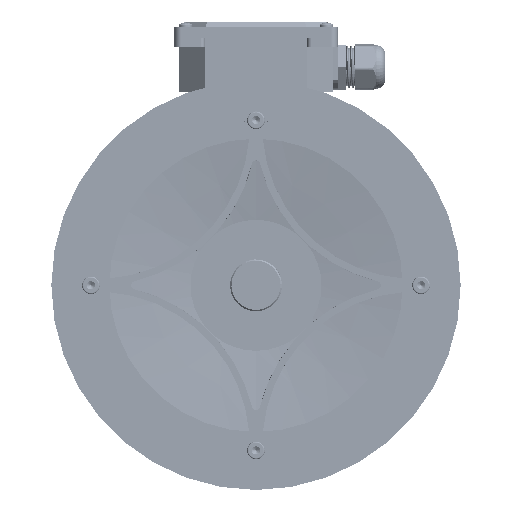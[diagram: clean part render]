
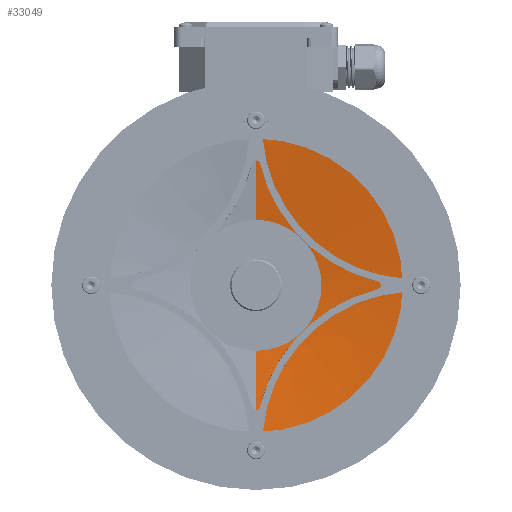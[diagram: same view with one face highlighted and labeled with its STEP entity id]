
A CAD part, front view. The second image highlights one B-rep face of the part: STEP entity #33049.
In plain terms, the highlighted conical face has half-angle 83.29 degrees and reference radius 48 mm.
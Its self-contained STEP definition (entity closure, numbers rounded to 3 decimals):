
#535 = CARTESIAN_POINT ( 'NONE',  ( 0., 15.363, 48. ) ) ;
#5953 = ORIENTED_EDGE ( 'NONE', *, *, #112389, .F. ) ;
#8708 = ORIENTED_EDGE ( 'NONE', *, *, #14385, .F. ) ;
#10110 = LINE ( 'NONE', #74543, #62810 ) ;
#11145 = VERTEX_POINT ( 'NONE', #535 ) ;
#14385 = EDGE_CURVE ( 'NONE', #27035, #11145, #50918, .T. ) ;
#16172 = DIRECTION ( 'NONE',  ( 0., -1., 0. ) ) ;
#22188 = CONICAL_SURFACE ( 'NONE', #133109, 48., 1.454 ) ;
#26769 = DIRECTION ( 'NONE',  ( 0., 0., -1. ) ) ;
#27035 = VERTEX_POINT ( 'NONE', #135183 ) ;
#33049 = ADVANCED_FACE ( 'NONE', ( #109479 ), #22188, .F. ) ;
#35917 = CARTESIAN_POINT ( 'NONE',  ( 0., 15.363, 48. ) ) ;
#38366 = CARTESIAN_POINT ( 'NONE',  ( 0., 8.363, 107.5 ) ) ;
#40924 = CARTESIAN_POINT ( 'NONE',  ( 0., 8.363, -107.5 ) ) ;
#46155 = ORIENTED_EDGE ( 'NONE', *, *, #98382, .T. ) ;
#48150 = VECTOR ( 'NONE', #98947, 1000. ) ;
#50918 = CIRCLE ( 'NONE', #109324, 48. ) ;
#56342 = DIRECTION ( 'NONE',  ( 0., -1., 0. ) ) ;
#56763 = DIRECTION ( 'NONE',  ( 0., -1., 0. ) ) ;
#62549 = ORIENTED_EDGE ( 'NONE', *, *, #124348, .T. ) ;
#62689 = VERTEX_POINT ( 'NONE', #38366 ) ;
#62810 = VECTOR ( 'NONE', #85112, 1000. ) ;
#74543 = CARTESIAN_POINT ( 'NONE',  ( 0., 15.363, -48. ) ) ;
#81622 = AXIS2_PLACEMENT_3D ( 'NONE', #119813, #56763, #130364 ) ;
#85112 = DIRECTION ( 'NONE',  ( 0., -0.117, -0.993 ) ) ;
#89828 = CARTESIAN_POINT ( 'NONE',  ( 0., 15.363, 0. ) ) ;
#98382 = EDGE_CURVE ( 'NONE', #116052, #62689, #119296, .T. ) ;
#98947 = DIRECTION ( 'NONE',  ( 0., -0.117, 0.993 ) ) ;
#104989 = EDGE_LOOP ( 'NONE', ( #5953, #8708, #62549, #46155 ) ) ;
#109324 = AXIS2_PLACEMENT_3D ( 'NONE', #119378, #56342, #129941 ) ;
#109479 = FACE_OUTER_BOUND ( 'NONE', #104989, .T. ) ;
#112389 = EDGE_CURVE ( 'NONE', #11145, #62689, #128811, .T. ) ;
#116052 = VERTEX_POINT ( 'NONE', #40924 ) ;
#119296 = CIRCLE ( 'NONE', #81622, 107.5 ) ;
#119378 = CARTESIAN_POINT ( 'NONE',  ( 0., 15.363, 0. ) ) ;
#119813 = CARTESIAN_POINT ( 'NONE',  ( 0., 8.363, 0. ) ) ;
#124348 = EDGE_CURVE ( 'NONE', #27035, #116052, #10110, .T. ) ;
#128811 = LINE ( 'NONE', #35917, #48150 ) ;
#129941 = DIRECTION ( 'NONE',  ( 0., 0., -1. ) ) ;
#130364 = DIRECTION ( 'NONE',  ( 0., 0., -1. ) ) ;
#133109 = AXIS2_PLACEMENT_3D ( 'NONE', #89828, #16172, #26769 ) ;
#135183 = CARTESIAN_POINT ( 'NONE',  ( 0., 15.363, -48. ) ) ;
